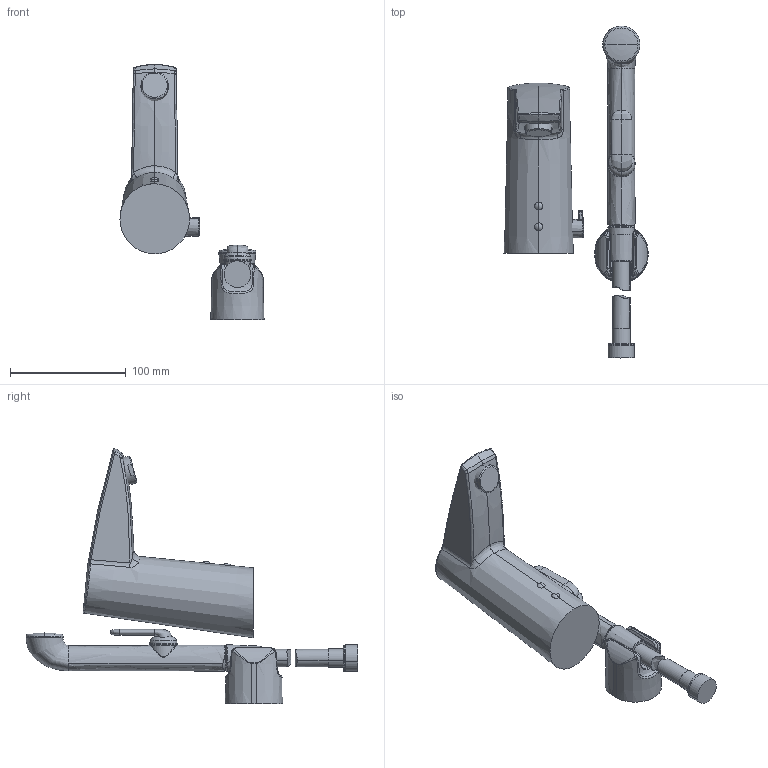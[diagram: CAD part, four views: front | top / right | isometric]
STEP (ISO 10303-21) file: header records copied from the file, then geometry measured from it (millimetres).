
FILE_DESCRIPTION (( 'STEP AP203' ), '1' );
FILE_NAME ('2816F+2826F+2826FT.STEP', '2018-05-24T07:19:17', ( '' ), ( '' ), 'SwSTEP 2.0', 'SolidWorks 2016', '' );
FILE_SCHEMA (( 'CONFIG_CONTROL_DESIGN' ));
Length unit declared in the file: millimetre
Products named in the file (1): 2816F+2826F+2826FT
Bounding box: 124.28 x 286.42 x 220.13 mm (x, y, z)
Volume: 649041.8 mm3; surface area: 82297.7 mm2
Topology: 11 solids, 11 shells, 215 faces, 471 edges, 277 vertices
Faces by surface type: bspline 99, plane 33, cylinder 32, torus 22, cone 19, sphere 10
Entity records: 15281 total; most frequent: CARTESIAN_POINT 11201, ORIENTED_EDGE 930, DIRECTION 672, EDGE_CURVE 465, AXIS2_PLACEMENT_3D 300, VERTEX_POINT 277, EDGE_LOOP 220, FACE_OUTER_BOUND 215
